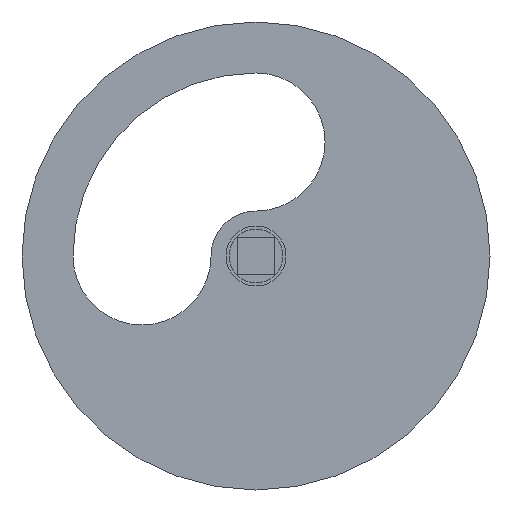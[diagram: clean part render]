
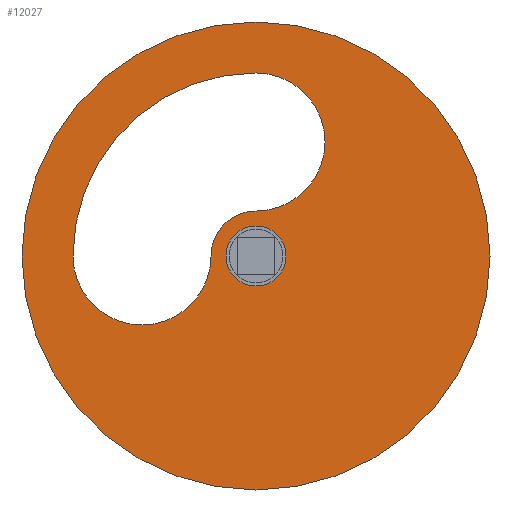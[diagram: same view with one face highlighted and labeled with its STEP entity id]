
A CAD part, left-side view. The second image highlights one B-rep face of the part: STEP entity #12027.
In plain terms, the highlighted planar face has unit normal (-1, 0, 0) as drawn and (1, 0, 0) by its records, which use the part's own axes.
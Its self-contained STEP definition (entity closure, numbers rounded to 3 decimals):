
#7991=CARTESIAN_POINT('',(6.,52.456,37.097));
#7992=VERTEX_POINT('',#7991);
#7993=CARTESIAN_POINT('',(6.,52.456,32.597));
#7994=DIRECTION('',(-1.0,0.0,0.0));
#7995=DIRECTION('',(0.0,0.0,-1.0));
#7996=AXIS2_PLACEMENT_3D('',#7993,#7994,#7995);
#7997=CIRCLE('',#7996,4.5);
#7998=EDGE_CURVE('',#7992,#7992,#7997,.T.);
#11866=CARTESIAN_POINT('',(6.,82.961,32.597));
#11867=VERTEX_POINT('',#11866);
#11874=CARTESIAN_POINT('',(6.,52.469,63.097));
#11875=VERTEX_POINT('',#11874);
#11876=CARTESIAN_POINT('',(6.,52.461,32.597));
#11877=DIRECTION('',(-1.0,0.0,0.0));
#11878=DIRECTION('',(0.0,1.,0.));
#11879=AXIS2_PLACEMENT_3D('',#11876,#11877,#11878);
#11880=CIRCLE('',#11879,30.5);
#11881=EDGE_CURVE('',#11875,#11867,#11880,.T.);
#11906=CARTESIAN_POINT('',(6.,59.956,32.597));
#11907=VERTEX_POINT('',#11906);
#11914=CARTESIAN_POINT('',(6.,71.459,32.597));
#11915=DIRECTION('',(-1.0,0.0,0.0));
#11916=DIRECTION('',(0.0,-1.,0.));
#11917=AXIS2_PLACEMENT_3D('',#11914,#11915,#11916);
#11918=CIRCLE('',#11917,11.502);
#11919=EDGE_CURVE('',#11867,#11907,#11918,.T.);
#11939=CARTESIAN_POINT('',(6.,52.456,40.097));
#11940=VERTEX_POINT('',#11939);
#11947=CARTESIAN_POINT('',(6.,52.456,32.597));
#11948=DIRECTION('',(1.0,0.0,0.0));
#11949=DIRECTION('',(0.0,-1.,0.));
#11950=AXIS2_PLACEMENT_3D('',#11947,#11948,#11949);
#11951=CIRCLE('',#11950,7.5);
#11952=EDGE_CURVE('',#11907,#11940,#11951,.T.);
#11971=CARTESIAN_POINT('',(6.,52.461,51.597));
#11972=DIRECTION('',(-1.0,0.0,0.0));
#11973=DIRECTION('',(0.0,0.001,1.));
#11974=AXIS2_PLACEMENT_3D('',#11971,#11972,#11973);
#11975=CIRCLE('',#11974,11.5);
#11976=EDGE_CURVE('',#11940,#11875,#11975,.T.);
#11987=CARTESIAN_POINT('',(6.,91.457,32.597));
#11988=VERTEX_POINT('',#11987);
#11989=CARTESIAN_POINT('',(6.,52.456,32.597));
#11990=DIRECTION('',(1.0,0.0,0.0));
#11991=DIRECTION('',(0.0,-1.0,0.0));
#11992=AXIS2_PLACEMENT_3D('',#11989,#11990,#11991);
#11993=CIRCLE('',#11992,39.);
#11994=EDGE_CURVE('',#11988,#11988,#11993,.T.);
#12010=CARTESIAN_POINT('',(6.,52.456,32.597));
#12011=DIRECTION('',(1.0,0.0,0.0));
#12012=DIRECTION('',(0.0,0.0,-1.0));
#12013=AXIS2_PLACEMENT_3D('',#12010,#12011,#12012);
#12014=PLANE('',#12013);
#12015=ORIENTED_EDGE('',*,*,#11994,.T.);
#12016=EDGE_LOOP('',(#12015));
#12017=FACE_OUTER_BOUND('',#12016,.T.);
#12018=ORIENTED_EDGE('',*,*,#7998,.T.);
#12019=EDGE_LOOP('',(#12018));
#12020=FACE_BOUND('',#12019,.T.);
#12021=ORIENTED_EDGE('',*,*,#11881,.T.);
#12022=ORIENTED_EDGE('',*,*,#11919,.T.);
#12023=ORIENTED_EDGE('',*,*,#11952,.T.);
#12024=ORIENTED_EDGE('',*,*,#11976,.T.);
#12025=EDGE_LOOP('',(#12021,#12022,#12023,#12024));
#12026=FACE_BOUND('',#12025,.T.);
#12027=ADVANCED_FACE('',(#12017,#12020,#12026),#12014,.T.);
